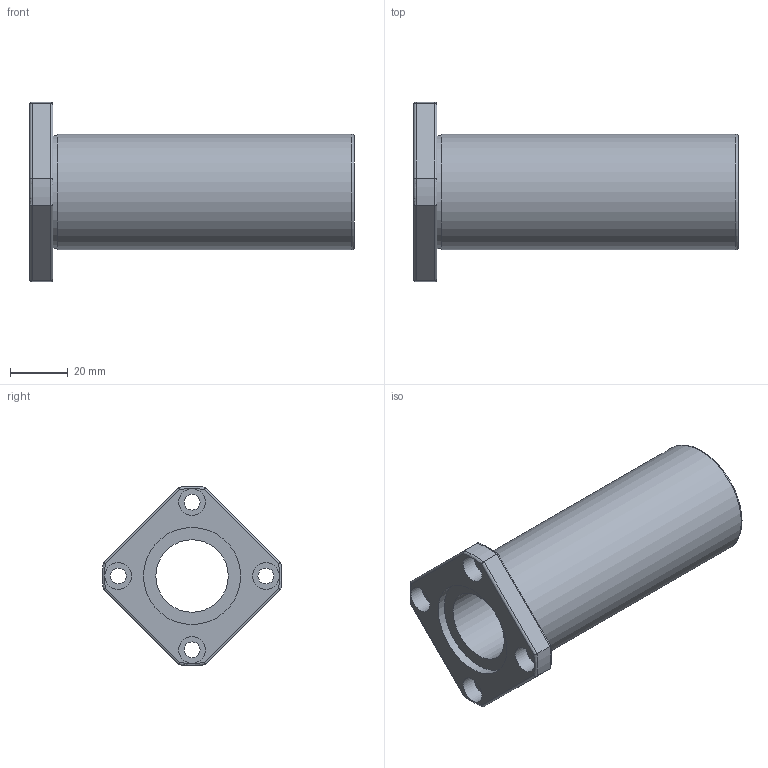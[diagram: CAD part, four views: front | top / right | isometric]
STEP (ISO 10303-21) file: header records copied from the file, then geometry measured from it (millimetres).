
FILE_DESCRIPTION( ( 'Unknown' ), '1' );
FILE_NAME( 'D:/累诀/己绕皋墨飘肺葱胶/11-04-06_档搁累己/01_府聪绢何教/LMK L/LMK 25L.stp', 'Unknown', ( 'Unknown' ), ( 'Unknown' ), 'PSStep 11.0', 'Unknown', ' ' );
FILE_SCHEMA( ( 'AUTOMOTIVE_DESIGN { 1 0 10303 214 1 1 1 1 }' ) );
Length unit declared in the file: millimetre
Products named in the file (1): 1
Bounding box: 112 x 61.96 x 61.92 mm (x, y, z)
Volume: 90925.6 mm3; surface area: 27920.3 mm2
Topology: 1 solids, 1 shells, 48 faces, 105 edges, 67 vertices
Faces by surface type: cylinder 25, plane 14, torus 9
Full cylindrical faces by diameter (mm): 5.5 x4, 9.2 x4, 25 x1, 33.5 x2, 39 x1, 40 x1
Entity records: 1718 total; most frequent: CARTESIAN_POINT 311, DIRECTION 216, ORIENTED_EDGE 174, AXIS2_PLACEMENT_3D 96, EDGE_CURVE 87, EDGE_LOOP 80, VERTEX_POINT 63, FACE_OUTER_BOUND 62
